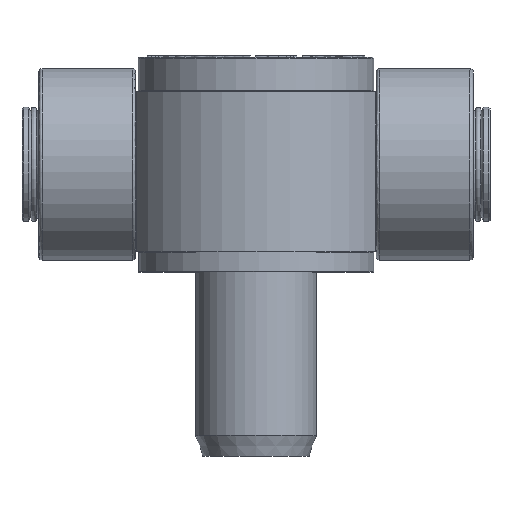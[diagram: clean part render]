
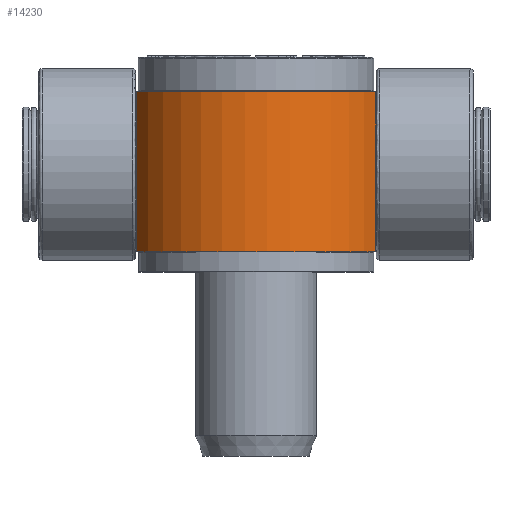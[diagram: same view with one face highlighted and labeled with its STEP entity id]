
A CAD part, top view. The second image highlights one B-rep face of the part: STEP entity #14230.
In plain terms, the highlighted cylindrical face has radius 79 mm (diameter 158 mm), a partial arc.
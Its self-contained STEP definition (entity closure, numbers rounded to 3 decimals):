
#1676=CYLINDRICAL_SURFACE('',#15156,79.);
#1769=FACE_OUTER_BOUND('',#2571,.T.);
#2571=EDGE_LOOP('',(#9823,#9824,#9825,#9826));
#3404=LINE('',#19060,#4607);
#3407=LINE('',#19275,#4610);
#4607=VECTOR('',#16005,10.);
#4610=VECTOR('',#16012,10.);
#5821=CIRCLE('',#15148,79.);
#5825=CIRCLE('',#15154,79.);
#6045=VERTEX_POINT('',#19054);
#6047=VERTEX_POINT('',#19058);
#6050=VERTEX_POINT('',#19271);
#6052=VERTEX_POINT('',#19274);
#7535=EDGE_CURVE('',#6045,#6047,#3404,.T.);
#7541=EDGE_CURVE('',#6052,#6050,#3407,.T.);
#7549=EDGE_CURVE('',#6052,#6047,#5821,.T.);
#7554=EDGE_CURVE('',#6045,#6050,#5825,.T.);
#9823=ORIENTED_EDGE('',*,*,#7541,.T.);
#9824=ORIENTED_EDGE('',*,*,#7554,.F.);
#9825=ORIENTED_EDGE('',*,*,#7535,.T.);
#9826=ORIENTED_EDGE('',*,*,#7549,.F.);
#14230=ADVANCED_FACE('',(#1769),#1676,.T.);
#15148=AXIS2_PLACEMENT_3D('',#19290,#16029,#16030);
#15154=AXIS2_PLACEMENT_3D('',#19298,#16042,#16043);
#15156=AXIS2_PLACEMENT_3D('',#19300,#16046,#16047);
#16005=DIRECTION('',(0.,0.,1.));
#16012=DIRECTION('',(0.,0.,-1.));
#16029=DIRECTION('center_axis',(0.,0.,1.));
#16030=DIRECTION('ref_axis',(-1.,0.,0.));
#16042=DIRECTION('center_axis',(0.,0.,-1.));
#16043=DIRECTION('ref_axis',(-1.,0.,0.));
#16046=DIRECTION('center_axis',(0.,0.,1.));
#16047=DIRECTION('ref_axis',(-1.,0.,0.));
#19054=CARTESIAN_POINT('',(-34.641,-71.,0.));
#19058=CARTESIAN_POINT('',(-34.641,-71.,95.));
#19060=CARTESIAN_POINT('',(-34.641,-71.,0.));
#19271=CARTESIAN_POINT('',(-34.641,71.,0.));
#19274=CARTESIAN_POINT('',(-34.641,71.,95.));
#19275=CARTESIAN_POINT('',(-34.641,71.,0.));
#19290=CARTESIAN_POINT('Origin',(0.,0.,95.));
#19298=CARTESIAN_POINT('Origin',(0.,0.,0.));
#19300=CARTESIAN_POINT('Origin',(0.,0.,0.));
